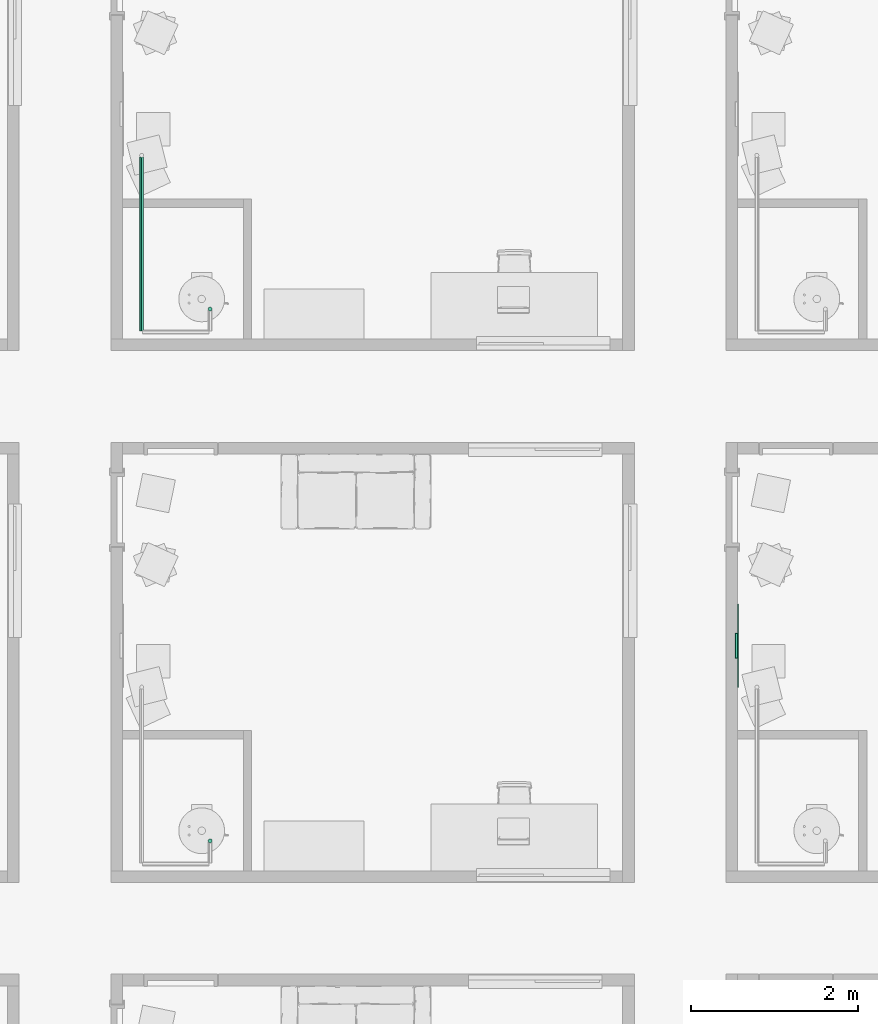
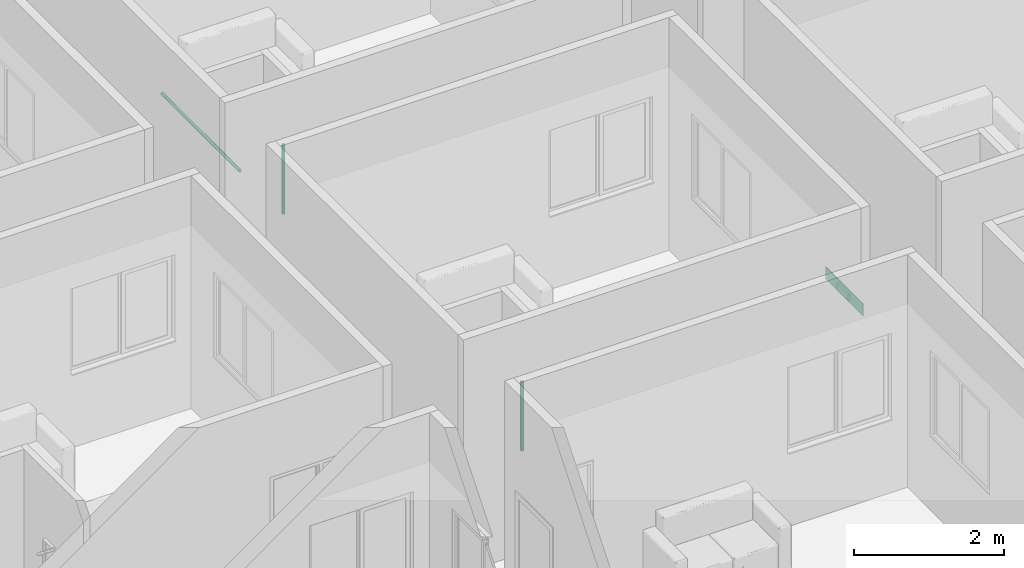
# One storey, part 40 of 72: 3 pipe segments, 1 air terminal.
"""IFC4 building model written with IfcOpenShell, lengths in centimetres."""

from ifc_helpers import new_model, entity, si_unit, converted_unit, derived_unit, direction, frame, origin, place, context, subcontext, project, spatial, arc, indexed_curve, outline, extrude, source, transform, mapped, material, constituent, constituent_set, type_object, type_shapes, element, save


model = new_model("IFC4")

# Units and contexts
model_context = context("Model", 3, precision=0.001, world=origin(), true_north=direction((6.123233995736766e-17, 1.0)))
body_context = subcontext(model_context, "Body", "Model", "MODEL_VIEW")
ifc_project = project(units=[si_unit("LENGTHUNIT", "METRE", prefix="CENTI"), si_unit("AREAUNIT", "SQUARE_METRE"), si_unit("VOLUMEUNIT", "CUBIC_METRE"), derived_unit("THERMALTRANSMITTANCEUNIT", [(si_unit("MASSUNIT", "GRAM", prefix="KILO"), 1), (si_unit("THERMODYNAMICTEMPERATUREUNIT", "KELVIN"), -1), (si_unit("TIMEUNIT", "SECOND"), -3)]), converted_unit("PLANEANGLEUNIT", "DEGREE", entity("IfcPlaneAngleMeasure", 0.017453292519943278), si_unit("PLANEANGLEUNIT", "RADIAN"), dimensions=[0, 0, 0, 0, 0, 0, 0]), derived_unit("MASSDENSITYUNIT", [(si_unit("MASSUNIT", "GRAM", prefix="KILO"), 1), (si_unit("LENGTHUNIT", "METRE"), -3)]), derived_unit("VAPORPERMEABILITYUNIT", [(si_unit("LENGTHUNIT", "METRE"), -1), (si_unit("TIMEUNIT", "SECOND"), 1)]), derived_unit("USERDEFINED", [(si_unit("MASSUNIT", "GRAM", prefix="KILO"), 1), (si_unit("TIMEUNIT", "SECOND"), -3), (si_unit("LENGTHUNIT", "METRE"), 3), (si_unit("ELECTRICCURRENTUNIT", "AMPERE"), -2)]), derived_unit("SPECIFICHEATCAPACITYUNIT", [(si_unit("THERMODYNAMICTEMPERATUREUNIT", "KELVIN"), -1), (si_unit("LENGTHUNIT", "METRE"), 2), (si_unit("TIMEUNIT", "SECOND"), -2)]), derived_unit("THERMALCONDUCTANCEUNIT", [(si_unit("MASSUNIT", "GRAM", prefix="KILO"), 1), (si_unit("THERMODYNAMICTEMPERATUREUNIT", "KELVIN"), -1), (si_unit("TIMEUNIT", "SECOND"), -3), (si_unit("LENGTHUNIT", "METRE"), 1)]), si_unit("PRESSUREUNIT", "PASCAL"), derived_unit("MODULUSOFELASTICITYUNIT", [(si_unit("MASSUNIT", "GRAM", prefix="KILO"), 1), (si_unit("LENGTHUNIT", "METRE"), -1), (si_unit("TIMEUNIT", "SECOND"), -2)]), derived_unit("THERMALEXPANSIONCOEFFICIENTUNIT", [(si_unit("THERMODYNAMICTEMPERATUREUNIT", "KELVIN"), -1)])], contexts=[model_context])

# Site, building, storey, space
site_placement = place(None, origin())
site = spatial("IfcSite", under=ifc_project, at=site_placement, Name="Default", CompositionType="ELEMENT")
building_placement = place(site_placement, origin())
building = spatial("IfcBuilding", under=site, at=building_placement, Name="IDS Escape Game Building", CompositionType="ELEMENT")
storey_placement = place(building_placement, frame((0.0, 0.0, 800.0)))
storey = spatial("IfcBuildingStorey", under=building, at=storey_placement, Name="02_Second Floor", CompositionType="ELEMENT", Elevation=800.0)
space_placement = place(storey_placement, origin())
space = spatial("IfcSpace", under=storey, at=space_placement, Name="91", CompositionType="ELEMENT", PredefinedType="NOTDEFINED")

# Air terminal
ifc_material_1 = material(Name="TB_LVC_referentievlak_00_gen_BERSnl", Category="BE Default")
ifc_constituent_1 = constituent(ifc_material_1, Name="TB_LVC_referentievlak_00_gen_BERSnl", Category="BE Default", fraction=0.00014157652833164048)
ifc_material_2 = material(Name="ARC_FME.h2_staal_00_gen_BERSnl", Category="h - metaal")
ifc_constituent_2 = constituent(ifc_material_2, Name="ARC_FME.h2_staal_00_gen_BERSnl", Category="h - metaal", fraction=0.9998584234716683)
ifc_constituent_set_1 = constituent_set(constituents=[ifc_constituent_1, ifc_constituent_2])
ifc_constituent_3 = constituent(ifc_material_1, Name="BE Referentievlak", Category="BE Default", fraction=0.00014157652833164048)
ifc_constituent_4 = constituent(ifc_material_2, Name="Terminals", Category="h - metaal", fraction=0.9998584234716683)
ifc_constituent_set_2 = constituent_set(constituents=[ifc_constituent_3, ifc_constituent_4])
air_terminal_type = type_object("IfcAirTerminalType", Name="TB_57_AIR_FB_aanzuigrooster - 1 rechthoekige aansluiting - calculated flow_gen_BERSnl:Air Terminal - Exhaust", PredefinedType="GRILLE", material=ifc_constituent_set_2)
shared_shape = source(origin(), body_context, "Body", "SweptSolid", [
    extrude(outline(indexed_curve([(-0.5, -2.0290176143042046e-15), (6.8507733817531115e-16, -0.5000000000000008), (0.5, 2.0290176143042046e-15), (-5.361679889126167e-16, 0.49999999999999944)], segments=[arc(1, 2, 3), arc(3, 4, 1)], self_intersect=False)), frame((0.0, 0.0, 0.0), z_axis=(1.7453292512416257e-05, 0.0, 1.0), x_axis=(0.0, 1.0, 0.0)), (0.0, 0.0, 1.0), 0.09999999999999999),
    extrude(outline(indexed_curve([(-14.900000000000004, -4.9), (14.900000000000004, -4.9), (14.900000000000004, 4.9), (-14.900000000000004, 4.9), (-14.900000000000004, -4.9)], self_intersect=False)), frame((-4.886921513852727e-05, 0.0, -2.7999999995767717)), (0.0, 0.0, 1.0), 2.7999999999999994),
    extrude(outline(indexed_curve([(-50.0, -10.0), (50.0, -10.0), (50.0, 10.0), (-50.0, 10.0), (-50.0, -10.0)], self_intersect=False)), frame((0.0, 0.0, 0.0), z_axis=(0.0, 0.0, 1.0), x_axis=(-1.0, 0.0, 0.0)), (0.0, 0.0, 1.0), 0.6999999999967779),
])
type_shapes(air_terminal_type, [shared_shape])
air_terminal_placement = place(space_placement, frame((4435.0, 1559.0, 24.0), z_axis=(1.0, 0.0, 0.0), x_axis=(0.0, 1.0, 0.0)))
element("IfcAirTerminal", 1, at=air_terminal_placement, inside=space, type_object=air_terminal_type, material=ifc_constituent_set_1, Name="TB_57_AIR_FB_aanzuigrooster - 1 rechthoekige aansluiting - calculated flow_gen_BERSnl:Air Terminal - Exhaust", ObjectType="TB_57_AIR_FB_aanzuigrooster - 1 rechthoekige aansluiting - calculated flow_gen_BERSnl:Air Terminal - Exhaust", PredefinedType="GRILLE", context=body_context, shape_type="MappedRepresentation", body=[
    mapped(shared_shape, transform((0.0, 0.0, 0.0), scale=1.0)),
])

# Pipe segments
pipe_segment_type = type_object("IfcPipeSegmentType", Name="Pipe Types:Piping Aluminum", PredefinedType="NOTDEFINED")
pipe_segment_1_placement = place(storey_placement, origin())
element("IfcPipeSegment", 2, at=pipe_segment_1_placement, inside=storey, type_object=pipe_segment_type, Name="Pipe Types:Piping Aluminum", ObjectType="Pipe Types:Piping Aluminum", PredefinedType="NOTDEFINED", context=body_context, shape_type="SweptSolid", body=[
    extrude(outline(indexed_curve([(2.412999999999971, 0.0), (1.7062486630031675, 1.7062486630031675), (0.0, 2.412999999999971), (-1.7062486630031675, 1.7062486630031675), (-2.412999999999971, 0.0), (-1.7062486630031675, -1.7062486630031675), (0.0, -2.412999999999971), (1.7062486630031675, -1.7062486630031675)], segments=[arc(1, 2, 3), arc(3, 4, 5), arc(5, 6, 7), arc(7, 8, 1)], self_intersect=False)), frame((3802.150000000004, 1324.900000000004, 128.0), z_axis=(0.0, 0.0, 1.0), x_axis=(-1.0, 0.0, 0.0)), (0.0, 0.0, 1.0), 112.90000000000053),
])
pipe_segment_2_placement = place(storey_placement, origin())
element("IfcPipeSegment", 3, at=pipe_segment_2_placement, inside=storey, type_object=pipe_segment_type, Name="Pipe Types:Piping Aluminum", ObjectType="Pipe Types:Piping Aluminum", PredefinedType="NOTDEFINED", context=body_context, shape_type="SweptSolid", body=[
    extrude(outline(indexed_curve([(2.412999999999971, 0.0), (1.7062486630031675, 1.7062486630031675), (0.0, 2.412999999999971), (-1.7062486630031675, 1.7062486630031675), (-2.412999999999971, 0.0), (-1.7062486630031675, -1.7062486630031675), (0.0, -2.412999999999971), (1.7062486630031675, -1.7062486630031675)], segments=[arc(1, 2, 3), arc(3, 4, 5), arc(5, 6, 7), arc(7, 8, 1)], self_intersect=False)), frame((3802.150000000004, 1962.9000000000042, 128.0), z_axis=(0.0, 0.0, 1.0), x_axis=(-1.0, 0.0, 0.0)), (0.0, 0.0, 1.0), 112.90000000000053),
])
pipe_segment_3_placement = place(storey_placement, origin())
element("IfcPipeSegment", 4, at=pipe_segment_3_placement, inside=storey, type_object=pipe_segment_type, Name="Pipe Types:Piping Aluminum", ObjectType="Pipe Types:Piping Aluminum", PredefinedType="NOTDEFINED", context=body_context, shape_type="SweptSolid", body=[
    extrude(outline(indexed_curve([(2.412999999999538, 0.0), (1.7062486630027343, 1.7062486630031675), (-4.331468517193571e-13, 2.412999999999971), (-1.7062486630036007, 1.7062486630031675), (-2.4130000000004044, 0.0), (-1.7062486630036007, -1.7062486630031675), (-4.331468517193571e-13, -2.412999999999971), (1.7062486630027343, -1.7062486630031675)], segments=[arc(1, 2, 3), arc(3, 4, 5), arc(5, 6, 7), arc(7, 8, 1)], self_intersect=False)), frame((3720.0467168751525, 1936.3648279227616, 242.0), z_axis=(0.0, 1.0, 0.0), x_axis=(1.0, 0.0, 0.0)), (0.0, 0.0, 1.0), 208.80000000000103),
])

save(model, "model.ifc")
